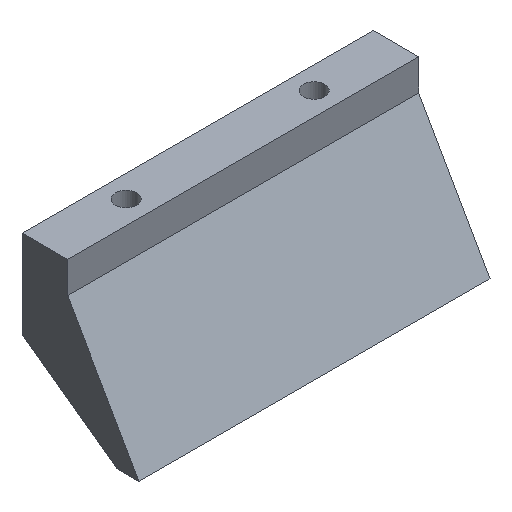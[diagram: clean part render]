
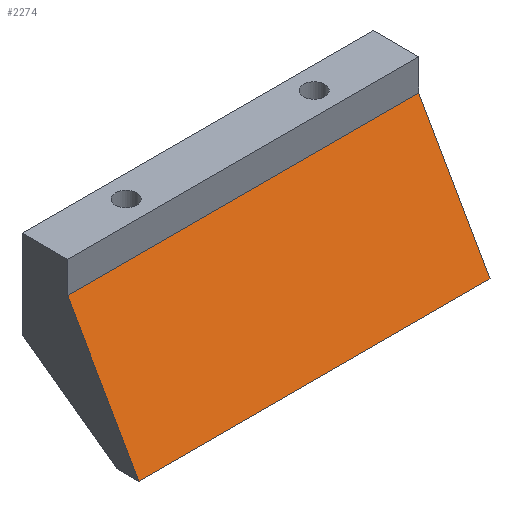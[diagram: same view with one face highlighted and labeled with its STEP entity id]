
A CAD part, isometric view. The second image highlights one B-rep face of the part: STEP entity #2274.
In plain terms, the highlighted planar face has unit normal (0, -0.87, 0.494).
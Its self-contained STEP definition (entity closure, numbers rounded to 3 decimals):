
#21 = EDGE_CURVE('',#22,#24,#26,.T.);
#22 = VERTEX_POINT('',#23);
#23 = CARTESIAN_POINT('',(-28.,-2.651,-144.04));
#24 = VERTEX_POINT('',#25);
#25 = CARTESIAN_POINT('',(28.,-2.651,-144.04));
#26 = SURFACE_CURVE('',#27,(#31,#43),.PCURVE_S1.);
#27 = LINE('',#28,#29);
#28 = CARTESIAN_POINT('',(-28.,-2.651,-144.04));
#29 = VECTOR('',#30,1.);
#30 = DIRECTION('',(1.,0.,0.));
#31 = PCURVE('',#32,#37);
#32 = PLANE('',#33);
#33 = AXIS2_PLACEMENT_3D('',#34,#35,#36);
#34 = CARTESIAN_POINT('',(-28.,-2.651,-144.04));
#35 = DIRECTION('',(0.,0.,1.));
#36 = DIRECTION('',(0.,1.,0.));
#37 = DEFINITIONAL_REPRESENTATION('',(#38),#42);
#38 = LINE('',#39,#40);
#39 = CARTESIAN_POINT('',(0.,0.));
#40 = VECTOR('',#41,1.);
#41 = DIRECTION('',(0.,-1.));
#42 = ( GEOMETRIC_REPRESENTATION_CONTEXT(2) 
PARAMETRIC_REPRESENTATION_CONTEXT() REPRESENTATION_CONTEXT('2D SPACE',''
  ) );
#43 = PCURVE('',#44,#49);
#44 = PLANE('',#45);
#45 = AXIS2_PLACEMENT_3D('',#46,#47,#48);
#46 = CARTESIAN_POINT('',(-28.,8.7,-124.04));
#47 = DIRECTION('',(0.,0.87,-0.494));
#48 = DIRECTION('',(0.,-0.494,-0.87));
#49 = DEFINITIONAL_REPRESENTATION('',(#50),#54);
#50 = LINE('',#51,#52);
#51 = CARTESIAN_POINT('',(22.997,0.));
#52 = VECTOR('',#53,1.);
#53 = DIRECTION('',(0.,-1.));
#54 = ( GEOMETRIC_REPRESENTATION_CONTEXT(2) 
PARAMETRIC_REPRESENTATION_CONTEXT() REPRESENTATION_CONTEXT('2D SPACE',''
  ) );
#72 = PLANE('',#73);
#73 = AXIS2_PLACEMENT_3D('',#74,#75,#76);
#74 = CARTESIAN_POINT('',(28.,8.135,-131.737));
#75 = DIRECTION('',(1.,0.,0.));
#76 = DIRECTION('',(-0.,0.,1.));
#126 = PLANE('',#127);
#127 = AXIS2_PLACEMENT_3D('',#128,#129,#130);
#128 = CARTESIAN_POINT('',(-28.,8.135,-131.737));
#129 = DIRECTION('',(1.,0.,0.));
#130 = DIRECTION('',(-0.,0.,1.));
#222 = VERTEX_POINT('',#223);
#223 = CARTESIAN_POINT('',(28.,8.7,-124.04));
#237 = PLANE('',#238);
#238 = AXIS2_PLACEMENT_3D('',#239,#240,#241);
#239 = CARTESIAN_POINT('',(-28.,8.7,-119.04));
#240 = DIRECTION('',(-0.,1.,0.));
#241 = DIRECTION('',(0.,0.,-1.));
#249 = EDGE_CURVE('',#222,#24,#250,.T.);
#250 = SURFACE_CURVE('',#251,(#255,#262),.PCURVE_S1.);
#251 = LINE('',#252,#253);
#252 = CARTESIAN_POINT('',(28.,8.7,-124.04));
#253 = VECTOR('',#254,1.);
#254 = DIRECTION('',(0.,-0.494,-0.87));
#255 = PCURVE('',#72,#256);
#256 = DEFINITIONAL_REPRESENTATION('',(#257),#261);
#257 = LINE('',#258,#259);
#258 = CARTESIAN_POINT('',(7.697,-0.565));
#259 = VECTOR('',#260,1.);
#260 = DIRECTION('',(-0.87,0.494));
#261 = ( GEOMETRIC_REPRESENTATION_CONTEXT(2) 
PARAMETRIC_REPRESENTATION_CONTEXT() REPRESENTATION_CONTEXT('2D SPACE',''
  ) );
#262 = PCURVE('',#44,#263);
#263 = DEFINITIONAL_REPRESENTATION('',(#264),#268);
#264 = LINE('',#265,#266);
#265 = CARTESIAN_POINT('',(0.,-56.));
#266 = VECTOR('',#267,1.);
#267 = DIRECTION('',(1.,0.));
#268 = ( GEOMETRIC_REPRESENTATION_CONTEXT(2) 
PARAMETRIC_REPRESENTATION_CONTEXT() REPRESENTATION_CONTEXT('2D SPACE',''
  ) );
#297 = EDGE_CURVE('',#298,#222,#300,.T.);
#298 = VERTEX_POINT('',#299);
#299 = CARTESIAN_POINT('',(-28.,8.7,-124.04));
#300 = SURFACE_CURVE('',#301,(#305,#312),.PCURVE_S1.);
#301 = LINE('',#302,#303);
#302 = CARTESIAN_POINT('',(-28.,8.7,-124.04));
#303 = VECTOR('',#304,1.);
#304 = DIRECTION('',(1.,0.,0.));
#305 = PCURVE('',#237,#306);
#306 = DEFINITIONAL_REPRESENTATION('',(#307),#311);
#307 = LINE('',#308,#309);
#308 = CARTESIAN_POINT('',(5.,0.));
#309 = VECTOR('',#310,1.);
#310 = DIRECTION('',(0.,-1.));
#311 = ( GEOMETRIC_REPRESENTATION_CONTEXT(2) 
PARAMETRIC_REPRESENTATION_CONTEXT() REPRESENTATION_CONTEXT('2D SPACE',''
  ) );
#312 = PCURVE('',#44,#313);
#313 = DEFINITIONAL_REPRESENTATION('',(#314),#318);
#314 = LINE('',#315,#316);
#315 = CARTESIAN_POINT('',(0.,0.));
#316 = VECTOR('',#317,1.);
#317 = DIRECTION('',(0.,-1.));
#318 = ( GEOMETRIC_REPRESENTATION_CONTEXT(2) 
PARAMETRIC_REPRESENTATION_CONTEXT() REPRESENTATION_CONTEXT('2D SPACE',''
  ) );
#2247 = EDGE_CURVE('',#298,#22,#2248,.T.);
#2248 = SURFACE_CURVE('',#2249,(#2253,#2260),.PCURVE_S1.);
#2249 = LINE('',#2250,#2251);
#2250 = CARTESIAN_POINT('',(-28.,8.7,-124.04));
#2251 = VECTOR('',#2252,1.);
#2252 = DIRECTION('',(0.,-0.494,-0.87));
#2253 = PCURVE('',#126,#2254);
#2254 = DEFINITIONAL_REPRESENTATION('',(#2255),#2259);
#2255 = LINE('',#2256,#2257);
#2256 = CARTESIAN_POINT('',(7.697,-0.565));
#2257 = VECTOR('',#2258,1.);
#2258 = DIRECTION('',(-0.87,0.494));
#2259 = ( GEOMETRIC_REPRESENTATION_CONTEXT(2) 
PARAMETRIC_REPRESENTATION_CONTEXT() REPRESENTATION_CONTEXT('2D SPACE',''
  ) );
#2260 = PCURVE('',#44,#2261);
#2261 = DEFINITIONAL_REPRESENTATION('',(#2262),#2266);
#2262 = LINE('',#2263,#2264);
#2263 = CARTESIAN_POINT('',(0.,0.));
#2264 = VECTOR('',#2265,1.);
#2265 = DIRECTION('',(1.,0.));
#2266 = ( GEOMETRIC_REPRESENTATION_CONTEXT(2) 
PARAMETRIC_REPRESENTATION_CONTEXT() REPRESENTATION_CONTEXT('2D SPACE',''
  ) );
#2274 = ADVANCED_FACE('',(#2275),#44,.F.);
#2275 = FACE_BOUND('',#2276,.F.);
#2276 = EDGE_LOOP('',(#2277,#2278,#2279,#2280));
#2277 = ORIENTED_EDGE('',*,*,#297,.T.);
#2278 = ORIENTED_EDGE('',*,*,#249,.T.);
#2279 = ORIENTED_EDGE('',*,*,#21,.F.);
#2280 = ORIENTED_EDGE('',*,*,#2247,.F.);
